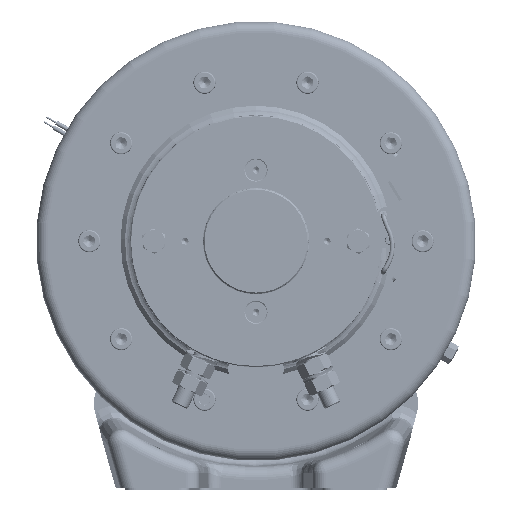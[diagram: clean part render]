
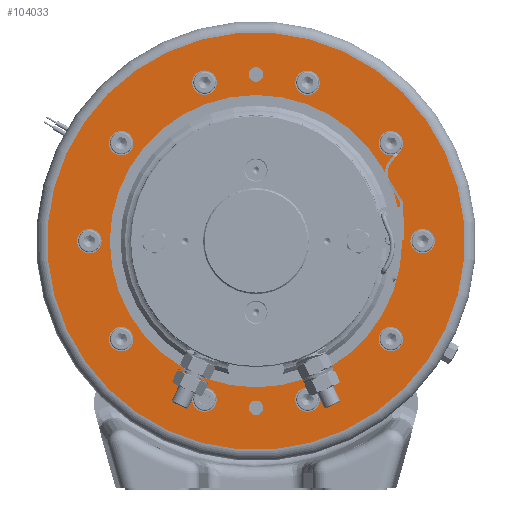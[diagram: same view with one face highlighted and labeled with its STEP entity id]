
A CAD part, left-side view. The second image highlights one B-rep face of the part: STEP entity #104033.
In plain terms, the highlighted planar face has unit normal (-1, 0, 0).
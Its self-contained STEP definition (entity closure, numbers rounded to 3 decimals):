
#3163=FACE_BOUND('',#19225,.T.);
#3164=FACE_BOUND('',#19226,.T.);
#3165=FACE_BOUND('',#19227,.T.);
#3166=FACE_BOUND('',#19228,.T.);
#3167=FACE_BOUND('',#19229,.T.);
#3168=FACE_BOUND('',#19230,.T.);
#3169=FACE_BOUND('',#19231,.T.);
#3170=FACE_BOUND('',#19232,.T.);
#3171=FACE_BOUND('',#19233,.T.);
#3172=FACE_BOUND('',#19234,.T.);
#3173=FACE_BOUND('',#19235,.T.);
#3174=FACE_BOUND('',#19236,.T.);
#3175=FACE_BOUND('',#19237,.T.);
#7305=PLANE('',#113329);
#12903=FACE_OUTER_BOUND('',#19224,.T.);
#19224=EDGE_LOOP('',(#92210));
#19225=EDGE_LOOP('',(#92211));
#19226=EDGE_LOOP('',(#92212));
#19227=EDGE_LOOP('',(#92213));
#19228=EDGE_LOOP('',(#92214));
#19229=EDGE_LOOP('',(#92215));
#19230=EDGE_LOOP('',(#92216));
#19231=EDGE_LOOP('',(#92217));
#19232=EDGE_LOOP('',(#92218));
#19233=EDGE_LOOP('',(#92219));
#19234=EDGE_LOOP('',(#92220));
#19235=EDGE_LOOP('',(#92221));
#19236=EDGE_LOOP('',(#92222));
#19237=EDGE_LOOP('',(#92223));
#40522=CIRCLE('',#113237,3.25);
#40526=CIRCLE('',#113244,3.25);
#40529=CIRCLE('',#113250,5.5);
#40532=CIRCLE('',#113256,5.5);
#40535=CIRCLE('',#113262,5.5);
#40538=CIRCLE('',#113268,5.5);
#40541=CIRCLE('',#113274,5.5);
#40544=CIRCLE('',#113280,5.5);
#40547=CIRCLE('',#113286,5.5);
#40550=CIRCLE('',#113292,5.5);
#40553=CIRCLE('',#113298,5.5);
#40556=CIRCLE('',#113304,5.5);
#40562=CIRCLE('',#113316,65.8);
#40570=CIRCLE('',#113328,94.);
#49730=VERTEX_POINT('',#203602);
#49734=VERTEX_POINT('',#203615);
#49737=VERTEX_POINT('',#203626);
#49740=VERTEX_POINT('',#203637);
#49743=VERTEX_POINT('',#203648);
#49746=VERTEX_POINT('',#203659);
#49749=VERTEX_POINT('',#203670);
#49752=VERTEX_POINT('',#203681);
#49755=VERTEX_POINT('',#203692);
#49758=VERTEX_POINT('',#203703);
#49761=VERTEX_POINT('',#203714);
#49764=VERTEX_POINT('',#203725);
#49770=VERTEX_POINT('',#203747);
#49776=VERTEX_POINT('',#203766);
#63849=EDGE_CURVE('',#49730,#49730,#40522,.T.);
#63855=EDGE_CURVE('',#49734,#49734,#40526,.T.);
#63860=EDGE_CURVE('',#49737,#49737,#40529,.T.);
#63865=EDGE_CURVE('',#49740,#49740,#40532,.T.);
#63870=EDGE_CURVE('',#49743,#49743,#40535,.T.);
#63875=EDGE_CURVE('',#49746,#49746,#40538,.T.);
#63880=EDGE_CURVE('',#49749,#49749,#40541,.T.);
#63885=EDGE_CURVE('',#49752,#49752,#40544,.T.);
#63890=EDGE_CURVE('',#49755,#49755,#40547,.T.);
#63895=EDGE_CURVE('',#49758,#49758,#40550,.T.);
#63900=EDGE_CURVE('',#49761,#49761,#40553,.T.);
#63905=EDGE_CURVE('',#49764,#49764,#40556,.T.);
#63916=EDGE_CURVE('',#49770,#49770,#40562,.T.);
#63925=EDGE_CURVE('',#49776,#49776,#40570,.T.);
#92210=ORIENTED_EDGE('',*,*,#63925,.F.);
#92211=ORIENTED_EDGE('',*,*,#63916,.T.);
#92212=ORIENTED_EDGE('',*,*,#63905,.T.);
#92213=ORIENTED_EDGE('',*,*,#63900,.T.);
#92214=ORIENTED_EDGE('',*,*,#63895,.T.);
#92215=ORIENTED_EDGE('',*,*,#63890,.T.);
#92216=ORIENTED_EDGE('',*,*,#63885,.T.);
#92217=ORIENTED_EDGE('',*,*,#63880,.T.);
#92218=ORIENTED_EDGE('',*,*,#63875,.T.);
#92219=ORIENTED_EDGE('',*,*,#63870,.T.);
#92220=ORIENTED_EDGE('',*,*,#63865,.T.);
#92221=ORIENTED_EDGE('',*,*,#63860,.T.);
#92222=ORIENTED_EDGE('',*,*,#63855,.T.);
#92223=ORIENTED_EDGE('',*,*,#63849,.T.);
#104033=ADVANCED_FACE('',(#12903,#3163,#3164,#3165,#3166,#3167,#3168,#3169,
#3170,#3171,#3172,#3173,#3174,#3175),#7305,.T.);
#113237=AXIS2_PLACEMENT_3D('',#203603,#140354,#140355);
#113244=AXIS2_PLACEMENT_3D('',#203616,#140370,#140371);
#113250=AXIS2_PLACEMENT_3D('',#203627,#140384,#140385);
#113256=AXIS2_PLACEMENT_3D('',#203638,#140398,#140399);
#113262=AXIS2_PLACEMENT_3D('',#203649,#140412,#140413);
#113268=AXIS2_PLACEMENT_3D('',#203660,#140426,#140427);
#113274=AXIS2_PLACEMENT_3D('',#203671,#140440,#140441);
#113280=AXIS2_PLACEMENT_3D('',#203682,#140454,#140455);
#113286=AXIS2_PLACEMENT_3D('',#203693,#140468,#140469);
#113292=AXIS2_PLACEMENT_3D('',#203704,#140482,#140483);
#113298=AXIS2_PLACEMENT_3D('',#203715,#140496,#140497);
#113304=AXIS2_PLACEMENT_3D('',#203726,#140510,#140511);
#113316=AXIS2_PLACEMENT_3D('',#203749,#140539,#140540);
#113328=AXIS2_PLACEMENT_3D('',#203768,#140564,#140565);
#113329=AXIS2_PLACEMENT_3D('',#203769,#140566,#140567);
#140354=DIRECTION('center_axis',(1.,0.,0.));
#140355=DIRECTION('ref_axis',(0.,1.,0.));
#140370=DIRECTION('center_axis',(1.,0.,0.));
#140371=DIRECTION('ref_axis',(0.,-1.,0.));
#140384=DIRECTION('center_axis',(1.,0.,0.));
#140385=DIRECTION('ref_axis',(0.,-0.809,0.588));
#140398=DIRECTION('center_axis',(1.,0.,0.));
#140399=DIRECTION('ref_axis',(0.,-0.309,0.951));
#140412=DIRECTION('center_axis',(1.,0.,0.));
#140413=DIRECTION('ref_axis',(0.,0.309,0.951));
#140426=DIRECTION('center_axis',(1.,0.,0.));
#140427=DIRECTION('ref_axis',(0.,0.809,0.588));
#140440=DIRECTION('center_axis',(1.,0.,0.));
#140441=DIRECTION('ref_axis',(0.,1.,0.));
#140454=DIRECTION('center_axis',(1.,0.,0.));
#140455=DIRECTION('ref_axis',(0.,0.809,-0.588));
#140468=DIRECTION('center_axis',(1.,0.,0.));
#140469=DIRECTION('ref_axis',(0.,0.309,-0.951));
#140482=DIRECTION('center_axis',(1.,0.,0.));
#140483=DIRECTION('ref_axis',(0.,-0.309,-0.951));
#140496=DIRECTION('center_axis',(1.,0.,0.));
#140497=DIRECTION('ref_axis',(0.,-0.809,-0.588));
#140510=DIRECTION('center_axis',(1.,0.,0.));
#140511=DIRECTION('ref_axis',(0.,-1.,0.));
#140539=DIRECTION('center_axis',(1.,0.,0.));
#140540=DIRECTION('ref_axis',(0.,1.,0.));
#140564=DIRECTION('center_axis',(1.,0.,0.));
#140565=DIRECTION('ref_axis',(0.,-0.996,-0.085));
#140566=DIRECTION('center_axis',(-1.,0.,0.));
#140567=DIRECTION('ref_axis',(0.,-0.085,
0.996));
#203602=CARTESIAN_POINT('',(78.926,-3.25,-75.));
#203603=CARTESIAN_POINT('Origin',(78.926,0.,
-75.));
#203615=CARTESIAN_POINT('',(78.926,3.25,75.));
#203616=CARTESIAN_POINT('Origin',(78.926,0.,
75.));
#203626=CARTESIAN_POINT('',(78.926,65.126,40.851));
#203627=CARTESIAN_POINT('Origin',(78.926,60.676,44.084));
#203637=CARTESIAN_POINT('',(78.926,76.7,-5.231));
#203638=CARTESIAN_POINT('Origin',(78.926,75.,0.));
#203648=CARTESIAN_POINT('',(78.926,58.977,-49.315));
#203649=CARTESIAN_POINT('Origin',(78.926,60.676,-44.084));
#203659=CARTESIAN_POINT('',(78.926,18.727,-74.562));
#203660=CARTESIAN_POINT('Origin',(78.926,23.176,-71.329));
#203670=CARTESIAN_POINT('',(78.926,-28.676,-71.329));
#203671=CARTESIAN_POINT('Origin',(78.926,-23.176,-71.329));
#203681=CARTESIAN_POINT('',(78.926,-65.126,-40.851));
#203682=CARTESIAN_POINT('Origin',(78.926,-60.676,-44.084));
#203692=CARTESIAN_POINT('',(78.926,-76.7,5.231));
#203693=CARTESIAN_POINT('Origin',(78.926,-75.,0.));
#203703=CARTESIAN_POINT('',(78.926,-58.977,49.315));
#203704=CARTESIAN_POINT('Origin',(78.926,-60.676,44.084));
#203714=CARTESIAN_POINT('',(78.926,-18.727,74.562));
#203715=CARTESIAN_POINT('Origin',(78.926,-23.176,71.329));
#203725=CARTESIAN_POINT('',(78.926,28.676,71.329));
#203726=CARTESIAN_POINT('Origin',(78.926,23.176,71.329));
#203747=CARTESIAN_POINT('',(78.926,0.,-65.8));
#203749=CARTESIAN_POINT('Origin',(78.926,0.,
0.));
#203766=CARTESIAN_POINT('',(78.926,-7.95,93.663));
#203768=CARTESIAN_POINT('Origin',(78.926,0.,
0.));
#203769=CARTESIAN_POINT('Origin',(78.926,98.645,8.373));
